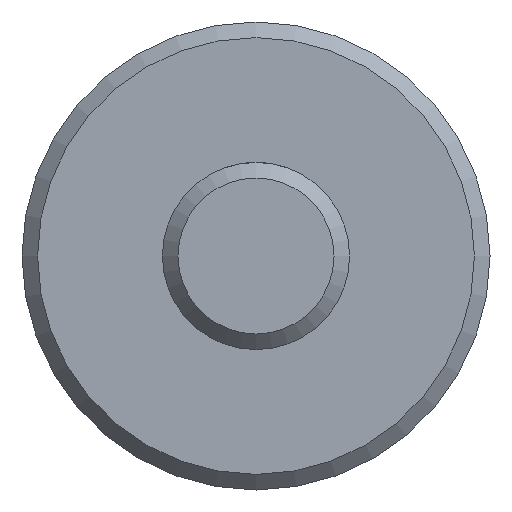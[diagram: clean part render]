
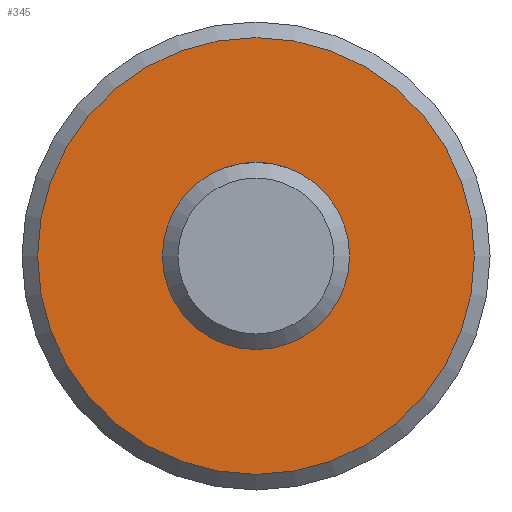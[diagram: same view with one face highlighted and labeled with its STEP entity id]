
A CAD part, left-side view. The second image highlights one B-rep face of the part: STEP entity #345.
In plain terms, the highlighted planar face has unit normal (-1, 0, 0).
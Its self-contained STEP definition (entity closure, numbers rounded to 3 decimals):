
#16=FACE_BOUND('',#89,.T.);
#34=CIRCLE('',#400,14.);
#35=CIRCLE('',#402,6.);
#67=FACE_OUTER_BOUND('',#88,.T.);
#88=EDGE_LOOP('',(#300));
#89=EDGE_LOOP('',(#301));
#170=VERTEX_POINT('',#651);
#171=VERTEX_POINT('',#655);
#215=EDGE_CURVE('',#170,#170,#34,.T.);
#217=EDGE_CURVE('',#171,#171,#35,.T.);
#300=ORIENTED_EDGE('',*,*,#215,.F.);
#301=ORIENTED_EDGE('',*,*,#217,.F.);
#327=PLANE('',#401);
#345=ADVANCED_FACE('',(#67,#16),#327,.T.);
#400=AXIS2_PLACEMENT_3D('',#652,#487,#488);
#401=AXIS2_PLACEMENT_3D('',#654,#490,#491);
#402=AXIS2_PLACEMENT_3D('',#656,#492,#493);
#487=DIRECTION('center_axis',(1.,0.,0.));
#488=DIRECTION('ref_axis',(0.,1.,0.));
#490=DIRECTION('center_axis',(-1.,0.,0.));
#491=DIRECTION('ref_axis',(0.,0.,1.));
#492=DIRECTION('center_axis',(-1.,0.,0.));
#493=DIRECTION('ref_axis',(0.,-1.,0.));
#651=CARTESIAN_POINT('',(34.997,-71.5,0.));
#652=CARTESIAN_POINT('Origin',(34.997,-57.5,0.));
#654=CARTESIAN_POINT('Origin',(34.997,-60.5,0.));
#655=CARTESIAN_POINT('',(34.997,-51.5,0.));
#656=CARTESIAN_POINT('Origin',(34.997,-57.5,0.));
